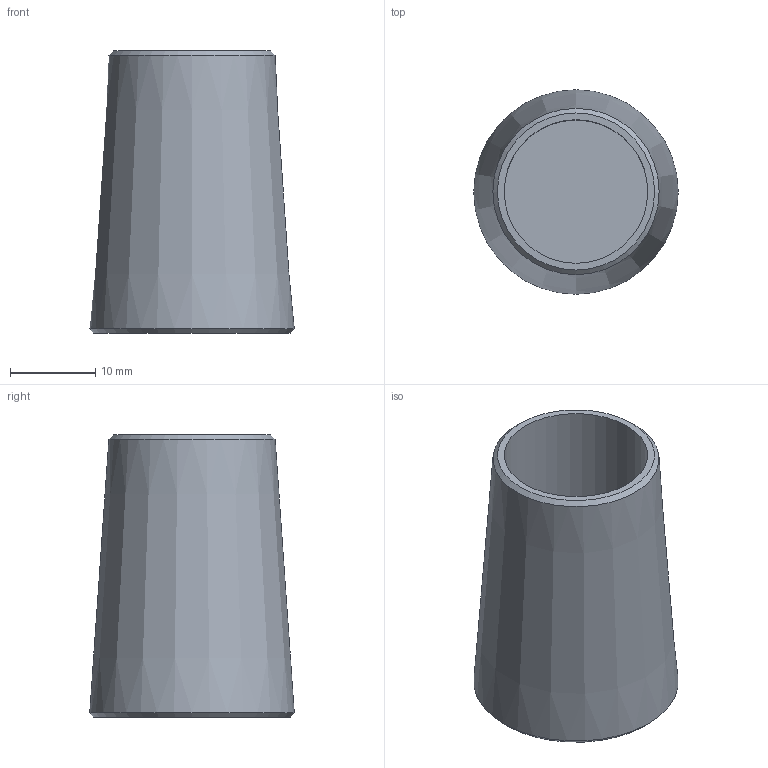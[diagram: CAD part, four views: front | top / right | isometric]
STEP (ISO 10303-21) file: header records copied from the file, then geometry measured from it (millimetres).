
FILE_DESCRIPTION(/* description */ (''),/* implementation_level */ '2;1');
FILE_NAME(/* name */ 'C:\Vault_WS\Designs\SB\01-PX\Verzinkt\ZSS\520 - Kontermutter\520-016-KMU.stp',/* time_stamp */ '2020-06-18T12:23:38+02:00',/* author */ ('schwarz'),/* organization */ (''),/* preprocessor_version */ 'ST-DEVELOPER v16.1',/* originating_system */ 'Autodesk Inventor 2016',/* authorisation */ '');
FILE_SCHEMA (('AUTOMOTIVE_DESIGN { 1 0 10303 214 3 1 1 }'));
Length unit declared in the file: millimetre
Products named in the file (1): Kontermutter 520 016 Kunde
Bounding box: 23.93 x 23.93 x 33 mm (x, y, z)
Volume: 6683.6 mm3; surface area: 4280.4 mm2
Topology: 1 solids, 1 shells, 7 faces, 10 edges, 6 vertices
Faces by surface type: cone 3, plane 3, cylinder 1
Full cylindrical faces by diameter (mm): 16.8 x1
Entity records: 158 total; most frequent: DIRECTION 28, CARTESIAN_POINT 20, AXIS2_PLACEMENT_3D 14, EDGE_LOOP 12, ORIENTED_EDGE 12, FACE_OUTER_BOUND 7, ADVANCED_FACE 7, CIRCLE 6
